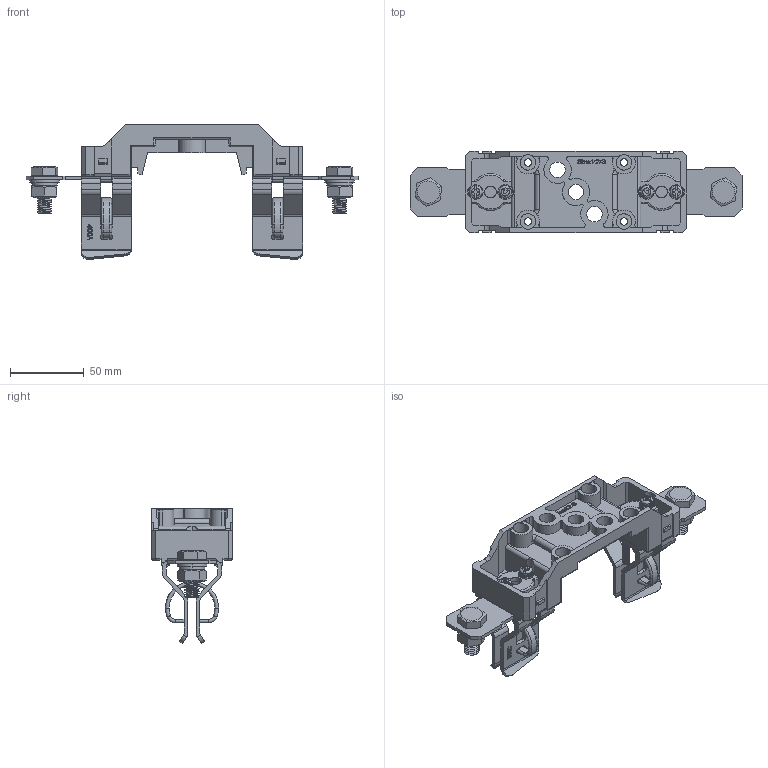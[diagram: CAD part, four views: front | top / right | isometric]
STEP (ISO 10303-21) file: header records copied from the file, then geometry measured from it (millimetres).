
FILE_DESCRIPTION (( 'STEP AP214' ), '1' );
FILE_NAME ('NGTC2熔断器底座.STEP', '2024-06-04T06:18:59', ( '微软用户' ), ( '微软中国' ), 'SwSTEP 2.0', 'SolidWorks 2019', '' );
FILE_SCHEMA (( 'AUTOMOTIVE_DESIGN' ));
Length unit declared in the file: millimetre
Products named in the file (1): NGTC2熔断器底座
Bounding box: 225 x 55 x 91.48 mm (x, y, z)
Volume: 115715.8 mm3; surface area: 84820.4 mm2
Topology: 17 solids, 17 shells, 2013 faces, 5534 edges, 3640 vertices
Faces by surface type: plane 1027, cylinder 748, bspline 128, torus 80, cone 22, sphere 8
Entity records: 115987 total; most frequent: CARTESIAN_POINT 45778, ORIENTED_EDGE 11052, DIRECTION 8641, EDGE_CURVE 5526, VERTEX_POINT 3640, VECTOR 3193, LINE 3193, AXIS2_PLACEMENT_3D 2724
